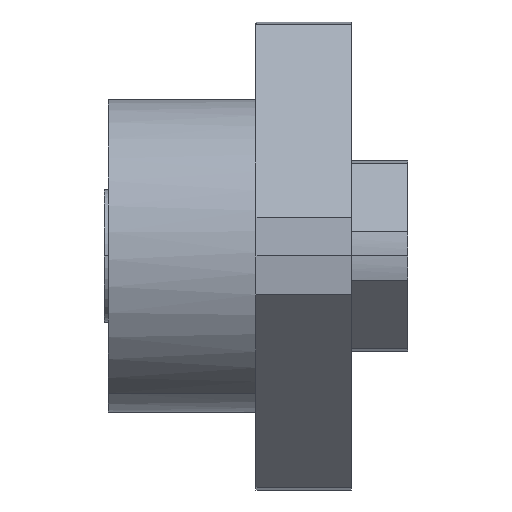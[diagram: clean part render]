
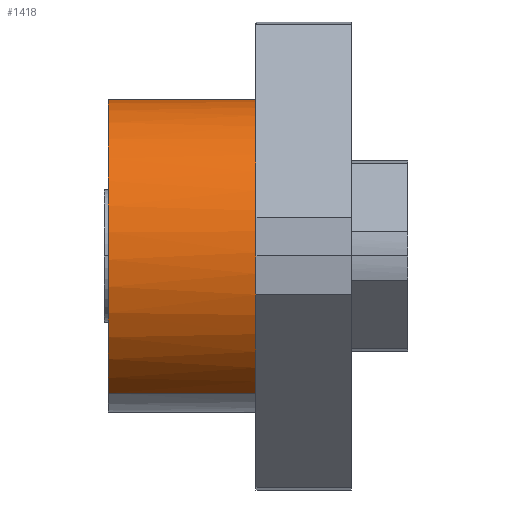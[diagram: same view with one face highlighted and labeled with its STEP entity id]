
A CAD part, front view. The second image highlights one B-rep face of the part: STEP entity #1418.
In plain terms, the highlighted cylindrical face has radius 18 mm (diameter 36 mm), a partial arc.
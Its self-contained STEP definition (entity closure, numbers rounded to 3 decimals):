
#690=CARTESIAN_POINT('Vertex',(-11.,8.63,15.796)) ;
#692=CARTESIAN_POINT('Vertex',(-11.,-8.63,-15.796)) ;
#696=CARTESIAN_POINT('Control Point',(-11.,-8.63,-15.796)) ;
#697=CARTESIAN_POINT('Control Point',(-11.,-10.089,-14.999)) ;
#698=CARTESIAN_POINT('Control Point',(-11.,-11.456,-14.034)) ;
#699=CARTESIAN_POINT('Control Point',(-11.,-12.705,-12.914)) ;
#700=CARTESIAN_POINT('Control Point',(-11.,-14.922,-10.405)) ;
#701=CARTESIAN_POINT('Control Point',(-11.,-16.509,-7.458)) ;
#702=CARTESIAN_POINT('Control Point',(-11.,-17.129,-5.899)) ;
#703=CARTESIAN_POINT('Control Point',(-11.,-17.996,-2.665)) ;
#704=CARTESIAN_POINT('Control Point',(-11.,-18.103,0.681)) ;
#705=CARTESIAN_POINT('Control Point',(-11.,-17.962,2.353)) ;
#706=CARTESIAN_POINT('Control Point',(-11.,-17.298,5.633)) ;
#707=CARTESIAN_POINT('Control Point',(-11.,-15.903,8.677)) ;
#708=CARTESIAN_POINT('Control Point',(-11.,-15.032,10.111)) ;
#709=CARTESIAN_POINT('Control Point',(-11.,-12.975,12.752)) ;
#710=CARTESIAN_POINT('Control Point',(-11.,-10.37,14.854)) ;
#711=CARTESIAN_POINT('Control Point',(-11.,-8.951,15.75)) ;
#712=CARTESIAN_POINT('Control Point',(-11.,-5.933,17.197)) ;
#713=CARTESIAN_POINT('Control Point',(-11.,-2.664,17.919)) ;
#714=CARTESIAN_POINT('Control Point',(-11.,-0.995,18.089)) ;
#715=CARTESIAN_POINT('Control Point',(-11.,2.021,18.044)) ;
#716=CARTESIAN_POINT('Control Point',(-11.,4.956,17.382)) ;
#717=CARTESIAN_POINT('Control Point',(-11.,6.231,16.966)) ;
#718=CARTESIAN_POINT('Control Point',(-11.,7.46,16.436)) ;
#719=CARTESIAN_POINT('Control Point',(-11.,8.63,15.796)) ;
#1376=CARTESIAN_POINT('Line Origine',(-55.725,8.63,15.796)) ;
#1380=CARTESIAN_POINT('Vertex',(-28.,8.63,15.796)) ;
#1383=CARTESIAN_POINT('Line Origine',(-55.725,-8.63,-15.796)) ;
#1387=CARTESIAN_POINT('Vertex',(-28.,-8.63,-15.796)) ;
#1402=CARTESIAN_POINT('Axis2P3D Location',(-55.725,0.,0.)) ;
#1407=CARTESIAN_POINT('Axis2P3D Location',(-28.,0.,0.)) ;
#1377=DIRECTION('Vector Direction',(-1.,0.,0.)) ;
#1384=DIRECTION('Vector Direction',(-1.,0.,0.)) ;
#1403=DIRECTION('Axis2P3D Direction',(-1.,0.,0.)) ;
#1404=DIRECTION('Axis2P3D XDirection',(0.,-0.479,-0.878)) ;
#1408=DIRECTION('Axis2P3D Direction',(-1.,0.,0.)) ;
#1405=AXIS2_PLACEMENT_3D('Cylinder Axis2P3D',#1402,#1403,#1404) ;
#1409=AXIS2_PLACEMENT_3D('Circle Axis2P3D',#1407,#1408,$) ;
#1413=ORIENTED_EDGE('',*,*,#1389,.F.) ;
#1414=ORIENTED_EDGE('',*,*,#720,.T.) ;
#1415=ORIENTED_EDGE('',*,*,#1382,.T.) ;
#1416=ORIENTED_EDGE('',*,*,#1411,.T.) ;
#1378=VECTOR('Line Direction',#1377,1.) ;
#1385=VECTOR('Line Direction',#1384,1.) ;
#1418=ADVANCED_FACE('FK12(H)',(#1417),#1406,.T.) ;
#695=B_SPLINE_CURVE_WITH_KNOTS('',5,(#696,#697,#698,#699,#700,#701,#702,#703,#704,#705,#706,#707,#708,#709,#710,#711,#712,#713,#714,#715,#716,#717,#718,#719),.UNSPECIFIED.,.F.,.U.,(6,3,3,3,3,3,3,6),(0.,11.757,23.515,35.272,47.03,58.787,70.545,79.971),.UNSPECIFIED.) ;
#1410=CIRCLE('generated circle',#1409,18.) ;
#1406=CYLINDRICAL_SURFACE('generated cylinder',#1405,18.) ;
#720=EDGE_CURVE('',#693,#691,#695,.T.) ;
#1382=EDGE_CURVE('',#691,#1381,#1379,.T.) ;
#1389=EDGE_CURVE('',#693,#1388,#1386,.T.) ;
#1411=EDGE_CURVE('',#1381,#1388,#1410,.F.) ;
#1412=EDGE_LOOP('',(#1413,#1414,#1415,#1416)) ;
#1417=FACE_OUTER_BOUND('',#1412,.T.) ;
#1379=LINE('Line',#1376,#1378) ;
#1386=LINE('Line',#1383,#1385) ;
#691=VERTEX_POINT('',#690) ;
#693=VERTEX_POINT('',#692) ;
#1381=VERTEX_POINT('',#1380) ;
#1388=VERTEX_POINT('',#1387) ;
